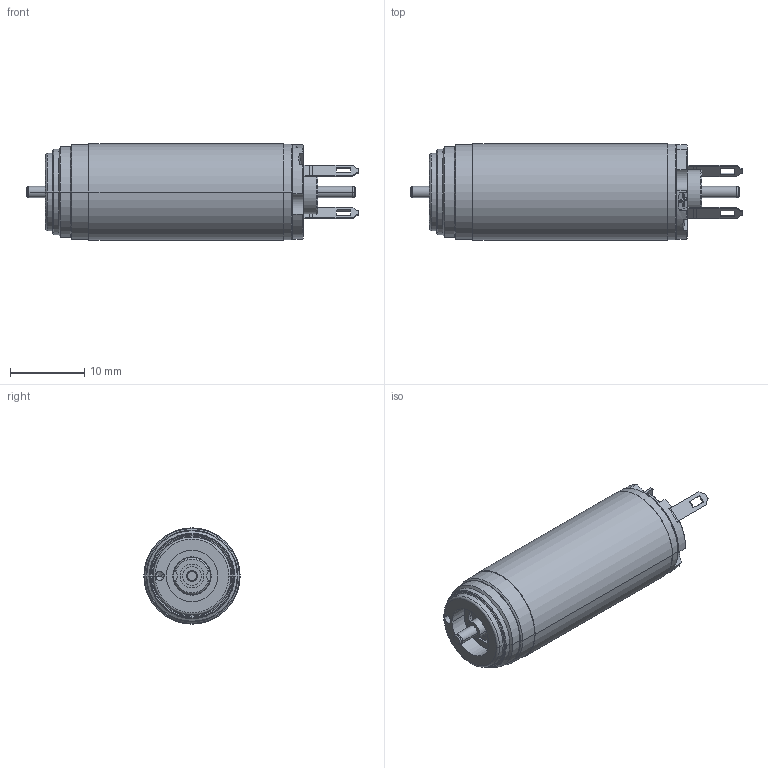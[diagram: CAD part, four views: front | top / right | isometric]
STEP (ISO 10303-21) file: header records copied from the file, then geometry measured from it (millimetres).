
FILE_DESCRIPTION((''),'2;1');
FILE_NAME('118506_2W_2WE_G_SW0001','2016-08-22T',('mmagpetk'),(''),'CREO PARAMETRIC BY PTC INC, 2016050','CREO PARAMETRIC BY PTC INC, 2016050','');
FILE_SCHEMA(('CONFIG_CONTROL_DESIGN'));
Length unit declared in the file: millimetre
Products named in the file (1): 118506_2W_2WE_G_SW0001
Bounding box: 44.8 x 13 x 13 mm (x, y, z)
Volume: 4438.8 mm3; surface area: 2206.7 mm2
Topology: 1 solids, 2 shells, 334 faces, 808 edges, 494 vertices
Faces by surface type: plane 131, cylinder 119, cone 64, torus 19, bspline 1
Entity records: 12706 total; most frequent: CARTESIAN_POINT 2218, DIRECTION 1747, ORIENTED_EDGE 1612, PRESENTATION_STYLE_ASSIGNMENT 807, STYLED_ITEM 807, CURVE_STYLE 806, EDGE_CURVE 806, AXIS2_PLACEMENT_3D 673
